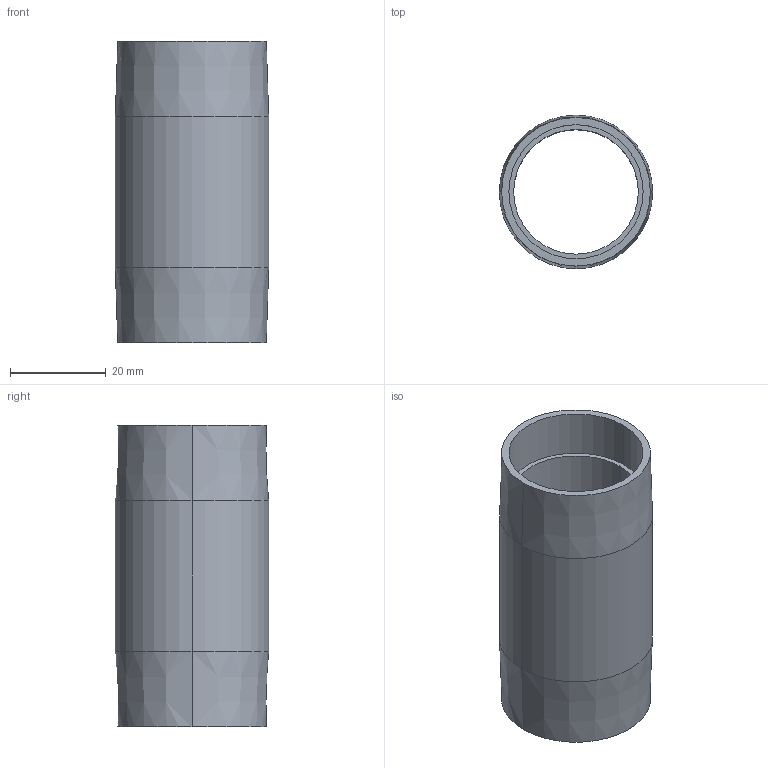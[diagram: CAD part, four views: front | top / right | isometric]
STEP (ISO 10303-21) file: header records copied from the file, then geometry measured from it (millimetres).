
FILE_DESCRIPTION (( 'STEP AP214' ), '1' );
FILE_NAME ('084.030.216.STEP', '2021-02-05T15:55:55', ( '' ), ( '' ), 'SwSTEP 2.0', 'SolidWorks 2018', '' );
FILE_SCHEMA (( 'AUTOMOTIVE_DESIGN' ));
Length unit declared in the file: millimetre
Products named in the file (1): 084.030.216
Bounding box: 32 x 32 x 63 mm (x, y, z)
Volume: 14739.2 mm3; surface area: 12004.8 mm2
Topology: 1 solids, 1 shells, 16 faces, 32 edges, 20 vertices
Faces by surface type: cylinder 8, cone 4, plane 4
Entity records: 462 total; most frequent: DIRECTION 86, CARTESIAN_POINT 69, ORIENTED_EDGE 64, AXIS2_PLACEMENT_3D 37, EDGE_CURVE 32, EDGE_LOOP 20, VERTEX_POINT 20, CIRCLE 20
